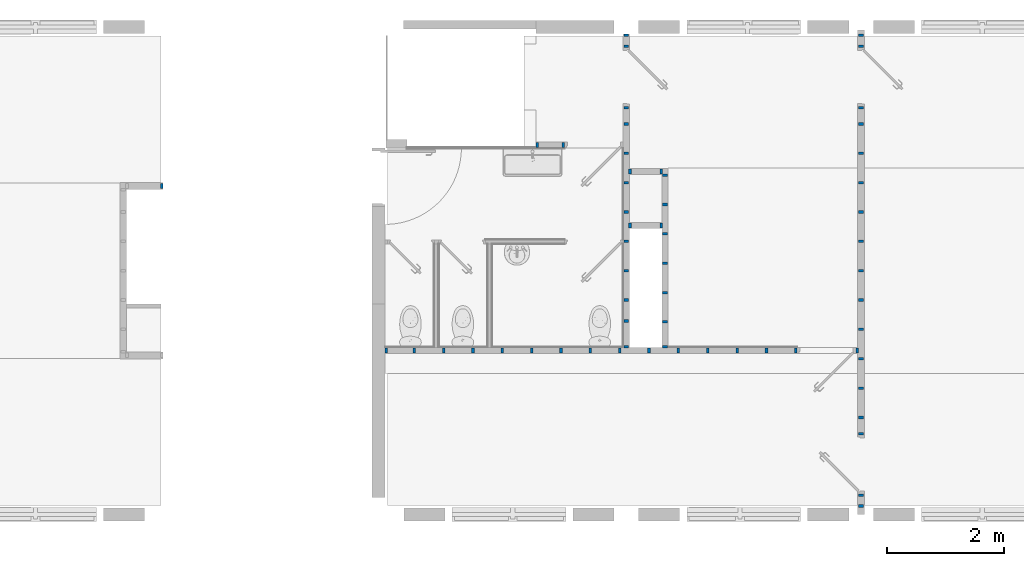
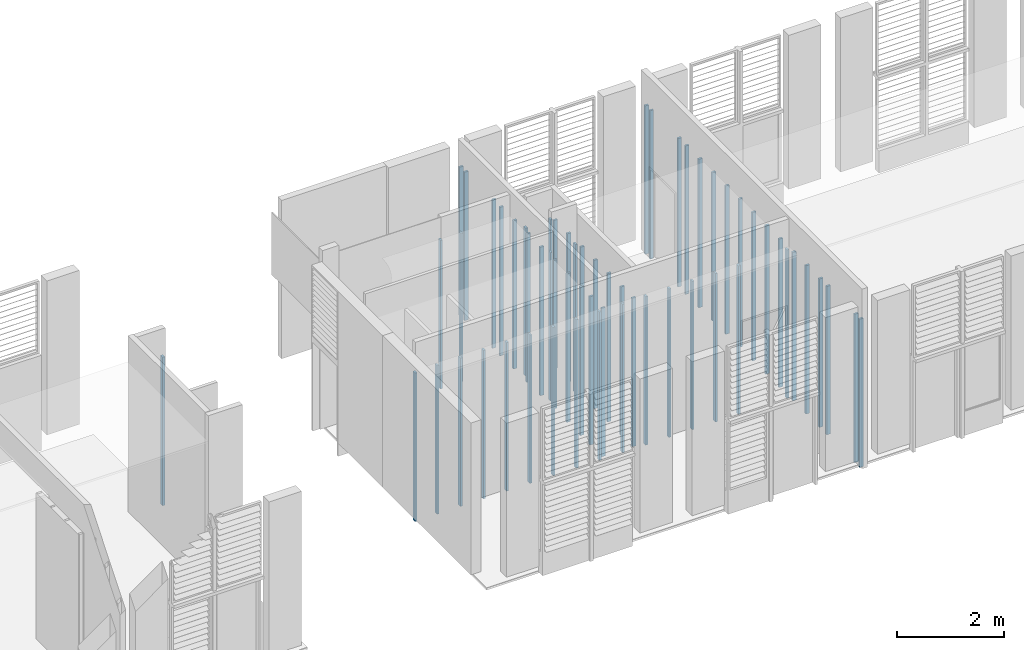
# One storey, part 2 of 8: 59 columns.
"""IFC2X3 building model written with IfcOpenShell, lengths in metres."""

from ifc_helpers import new_model, entity, si_unit, converted_unit, derived_unit, direction, frame, origin, origin_2d_with_axis, place, context, subcontext, project, spatial, rectangle, extrude, source, transform, mapped, material, type_object, type_shapes, element, save


model = new_model("IFC2X3")

# Units and contexts
model_context = context("Model", 3, precision=1e-05, world=origin(), true_north=direction((6.12303176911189e-17, 1.0)))
body_context = subcontext(model_context, "Body", "Model", "MODEL_VIEW")
ifc_project = project(units=[si_unit("LENGTHUNIT", "METRE"), si_unit("AREAUNIT", "SQUARE_METRE"), si_unit("VOLUMEUNIT", "CUBIC_METRE"), converted_unit("PLANEANGLEUNIT", "DEGREE", entity("IfcRatioMeasure", 0.0174532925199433), si_unit("PLANEANGLEUNIT", "RADIAN"), dimensions=[0, 0, 0, 0, 0, 0, 0]), si_unit("MASSUNIT", "GRAM", prefix="KILO"), derived_unit("MASSDENSITYUNIT", [(si_unit("MASSUNIT", "GRAM", prefix="KILO"), 1), (si_unit("LENGTHUNIT", "METRE"), -3)]), si_unit("TIMEUNIT", "SECOND"), si_unit("FREQUENCYUNIT", "HERTZ"), si_unit("THERMODYNAMICTEMPERATUREUNIT", "DEGREE_CELSIUS"), derived_unit("THERMALTRANSMITTANCEUNIT", [(si_unit("MASSUNIT", "GRAM", prefix="KILO"), 1), (si_unit("THERMODYNAMICTEMPERATUREUNIT", "KELVIN"), -1), (si_unit("TIMEUNIT", "SECOND"), -3)]), derived_unit("VOLUMETRICFLOWRATEUNIT", [(si_unit("LENGTHUNIT", "METRE"), 3), (si_unit("TIMEUNIT", "SECOND"), -1)]), si_unit("ELECTRICCURRENTUNIT", "AMPERE"), si_unit("ELECTRICVOLTAGEUNIT", "VOLT"), si_unit("POWERUNIT", "WATT"), si_unit("FORCEUNIT", "NEWTON", prefix="KILO"), si_unit("ILLUMINANCEUNIT", "LUX"), si_unit("LUMINOUSFLUXUNIT", "LUMEN"), si_unit("LUMINOUSINTENSITYUNIT", "CANDELA"), derived_unit("USERDEFINED", [(si_unit("MASSUNIT", "GRAM", prefix="KILO"), -1), (si_unit("LENGTHUNIT", "METRE"), -2), (si_unit("TIMEUNIT", "SECOND"), 3), (si_unit("LUMINOUSFLUXUNIT", "LUMEN"), 1)]), derived_unit("LINEARVELOCITYUNIT", [(si_unit("LENGTHUNIT", "METRE"), 1), (si_unit("TIMEUNIT", "SECOND"), -1)]), si_unit("PRESSUREUNIT", "PASCAL"), derived_unit("USERDEFINED", [(si_unit("LENGTHUNIT", "METRE"), -2), (si_unit("MASSUNIT", "GRAM", prefix="KILO"), 1), (si_unit("TIMEUNIT", "SECOND"), -2)])], contexts=[model_context])

# Site, building, storey
site_placement = place(None, origin())
site = spatial("IfcSite", under=ifc_project, at=site_placement, Name="Surface", CompositionType="ELEMENT")
building_placement = place(site_placement, origin())
building = spatial("IfcBuilding", under=site, at=building_placement, Name="ExPREF", CompositionType="ELEMENT")
storey_placement = place(building_placement, origin())
storey = spatial("IfcBuildingStorey", under=building, at=storey_placement, Name="RDC", CompositionType="ELEMENT", Elevation=-6.89719131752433e-12)

# Columns
ifc_material_1 = material(Name="AA-bois poutres")
column_type_1 = type_object("IfcColumnType", Name="HEA160", PredefinedType="COLUMN")
shared_shape_1 = source(origin(), body_context, "Body", "SweptSolid", [
    extrude(rectangle(XDim=0.08, YDim=0.0449999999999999, at=origin_2d_with_axis()), frame((0.0, 0.0, -0.0550000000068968), z_axis=(0.0, 0.0, 1.0), x_axis=(0.0, -1.0, 0.0)), (0.0, 0.0, 1.0), 3.385),
])
type_shapes(column_type_1, [shared_shape_1])
column_1_placement = place(storey_placement, frame((41.5772436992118, -187.766069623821, 0.0)))
element("IfcColumn", 1, at=column_1_placement, inside=storey, type_object=column_type_1, material=ifc_material_1, Name="poteau bois 8x4.5 cm:HEA160", ObjectType="HEA160", context=body_context, shape_type="MappedRepresentation", body=[
    mapped(shared_shape_1, transform((0.0, 0.0, 0.0), scale=1.0)),
])
ifc_material_2 = material(Name="AA-bois tasseau cloison")
column_type_2 = type_object("IfcColumnType", Name="HEA160", PredefinedType="COLUMN")
shared_shape_2 = source(origin(), body_context, "Body", "SweptSolid", [
    extrude(rectangle(XDim=0.08, YDim=0.0449999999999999, at=origin_2d_with_axis()), frame((0.0, 0.0, -0.0550000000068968), z_axis=(0.0, 0.0, 1.0), x_axis=(0.0, -1.0, 0.0)), (0.0, 0.0, 1.0), 3.385),
])
type_shapes(column_type_2, [shared_shape_2])
for number, where, z_axis, x_axis, name in (
    (2, (49.4897436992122, -189.20806962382, 0.0), (0.0, 0.0, 1.0), (0.0, -1.0, 0.0), "poteau bois 8x4.5 cm:HEA160"),
    (3, (49.4897436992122, -188.70806962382, 0.0), (0.0, 0.0, 1.0), (0.0, -1.0, 0.0), "poteau bois 8x4.5 cm:HEA160"),
    (4, (49.4897436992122, -188.20806962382, 0.0), (0.0, 0.0, 1.0), (0.0, -1.0, 0.0), "poteau bois 8x4.5 cm:HEA160"),
    (5, (49.4897436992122, -187.70806962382, 0.0), (0.0, 0.0, 1.0), (0.0, -1.0, 0.0), "poteau bois 8x4.5 cm:HEA160"),
    (6, (49.4897436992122, -187.20806962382, 0.0), (0.0, 0.0, 1.0), (0.0, -1.0, 0.0), "poteau bois 8x4.5 cm:HEA160"),
    (7, (49.4897436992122, -186.70806962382, 0.0), (0.0, 0.0, 1.0), (0.0, -1.0, 0.0), "poteau bois 8x4.5 cm:HEA160"),
    (8, (49.4897436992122, -185.19898794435, 0.0), (0.0, 0.0, 1.0), (0.0, -1.0, 0.0), "poteau bois 8x4.5 cm:HEA160"),
    (9, (49.4897436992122, -186.428987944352, 0.0), (0.0, 0.0, 1.0), (0.0, -1.0, 0.0), "poteau bois 8x4.5 cm:HEA160"),
    (10, (49.4897436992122, -185.383987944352, 0.0), (0.0, 0.0, 1.0), (0.0, -1.0, 0.0), "poteau bois 8x4.5 cm:HEA160"),
    (11, (53.4897436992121, -189.20806962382, 0.0), (0.0, 0.0, 1.0), (0.0, -1.0, 0.0), "poteau bois 8x4.5 cm:HEA160"),
    (12, (53.4897436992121, -188.70806962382, 0.0), (0.0, 0.0, 1.0), (0.0, -1.0, 0.0), "poteau bois 8x4.5 cm:HEA160"),
    (13, (53.4897436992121, -188.20806962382, 0.0), (0.0, 0.0, 1.0), (0.0, -1.0, 0.0), "poteau bois 8x4.5 cm:HEA160"),
    (14, (53.4897436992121, -187.70806962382, 0.0), (0.0, 0.0, 1.0), (0.0, -1.0, 0.0), "poteau bois 8x4.5 cm:HEA160"),
    (15, (53.4897436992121, -187.20806962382, 0.0), (0.0, 0.0, 1.0), (0.0, -1.0, 0.0), "poteau bois 8x4.5 cm:HEA160"),
    (16, (53.4897436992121, -186.70806962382, 0.0), (0.0, 0.0, 1.0), (0.0, -1.0, 0.0), "poteau bois 8x4.5 cm:HEA160"),
    (17, (53.4897436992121, -185.19898794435, 0.0), (0.0, 0.0, 1.0), (0.0, -1.0, 0.0), "poteau bois 8x4.5 cm:HEA160"),
    (18, (53.4897436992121, -186.428987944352, 0.0), (0.0, 0.0, 1.0), (0.0, -1.0, 0.0), "poteau bois 8x4.5 cm:HEA160"),
    (19, (53.4897436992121, -185.383987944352, 0.0), (0.0, 0.0, 1.0), (0.0, -1.0, 0.0), "poteau bois 8x4.5 cm:HEA160"),
):
    element("IfcColumn", number, at=place(storey_placement, frame(where, z_axis=z_axis, x_axis=x_axis)), inside=storey, type_object=column_type_2, material=ifc_material_2, Name=name, ObjectType="HEA160", context=body_context, shape_type="MappedRepresentation", body=[
        mapped(shared_shape_2, transform((0.0, 0.0, 0.0), scale=1.0)),
    ])
column_type_3 = type_object("IfcColumnType", Name="HEA160", PredefinedType="COLUMN")
shared_shape_3 = source(origin(), body_context, "Body", "SweptSolid", [
    extrude(rectangle(XDim=0.08, YDim=0.0449999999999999, at=origin_2d_with_axis()), frame((0.0, 0.0, -0.0550000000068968), z_axis=(0.0, 0.0, 1.0), x_axis=(0.0, -1.0, 0.0)), (0.0, 0.0, 1.0), 3.385),
])
type_shapes(column_type_3, [shared_shape_3])
column_2_placement = place(storey_placement, frame((49.4897436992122, -189.708069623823, 0.0), z_axis=(0.0, 0.0, 1.0), x_axis=(0.0, 1.0, 0.0)))
element("IfcColumn", 20, at=column_2_placement, inside=storey, type_object=column_type_3, material=ifc_material_2, Name="poteau bois 8x4.5 cm:HEA160", ObjectType="HEA160", context=body_context, shape_type="MappedRepresentation", body=[
    mapped(shared_shape_3, transform((0.0, 0.0, 0.0), scale=1.0)),
])
for number, where, name in (
    (21, (47.972243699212, -187.066488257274, 0.0), "poteau bois 8x4.5 cm:HEA160"),
    (22, (48.4147436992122, -187.066488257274, 0.0), "poteau bois 8x4.5 cm:HEA160"),
):
    element("IfcColumn", number, at=place(storey_placement, frame(where)), inside=storey, type_object=column_type_3, material=ifc_material_2, Name=name, ObjectType="HEA160", context=body_context, shape_type="MappedRepresentation", body=[
        mapped(shared_shape_3, transform((0.0, 0.0, 0.0), scale=1.0)),
    ])
for number, where, z_axis, x_axis, name in (
    (23, (53.4897436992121, -193.217151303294, 0.0), (0.0, 0.0, 1.0), (0.0, 1.0, 0.0), "poteau bois 8x4.5 cm:HEA160"),
    (24, (53.4897436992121, -189.708069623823, 0.0), (0.0, 0.0, 1.0), (0.0, 1.0, 0.0), "poteau bois 8x4.5 cm:HEA160"),
    (25, (53.4897436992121, -190.208069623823, 0.0), (0.0, 0.0, 1.0), (0.0, 1.0, 0.0), "poteau bois 8x4.5 cm:HEA160"),
    (26, (53.4897436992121, -190.708069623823, 0.0), (0.0, 0.0, 1.0), (0.0, 1.0, 0.0), "poteau bois 8x4.5 cm:HEA160"),
    (27, (53.4897436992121, -191.208069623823, 0.0), (0.0, 0.0, 1.0), (0.0, 1.0, 0.0), "poteau bois 8x4.5 cm:HEA160"),
    (28, (53.4897436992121, -191.708069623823, 0.0), (0.0, 0.0, 1.0), (0.0, 1.0, 0.0), "poteau bois 8x4.5 cm:HEA160"),
    (29, (53.4897436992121, -191.987151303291, 0.0), (0.0, 0.0, 1.0), (0.0, 1.0, 0.0), "poteau bois 8x4.5 cm:HEA160"),
    (30, (53.4897436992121, -193.032151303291, 0.0), (0.0, 0.0, 1.0), (0.0, 1.0, 0.0), "poteau bois 8x4.5 cm:HEA160"),
):
    element("IfcColumn", number, at=place(storey_placement, frame(where, z_axis=z_axis, x_axis=x_axis)), inside=storey, type_object=column_type_3, material=ifc_material_2, Name=name, ObjectType="HEA160", context=body_context, shape_type="MappedRepresentation", body=[
        mapped(shared_shape_3, transform((0.0, 0.0, 0.0), scale=1.0)),
    ])
for number, where, name in (
    (31, (50.0872436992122, -187.516069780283, 0.0), "poteau bois 8x4.5 cm:HEA160"),
    (32, (49.5522436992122, -187.516069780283, 0.0), "poteau bois 8x4.5 cm:HEA160"),
):
    element("IfcColumn", number, at=place(storey_placement, frame(where)), inside=storey, type_object=column_type_3, material=ifc_material_2, Name=name, ObjectType="HEA160", context=body_context, shape_type="MappedRepresentation", body=[
        mapped(shared_shape_3, transform((0.0, 0.0, 0.0), scale=1.0)),
    ])
for number, where, z_axis, x_axis, name in (
    (33, (50.1497436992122, -187.580569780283, 0.0), (0.0, 0.0, 1.0), (0.0, -1.0, 0.0), "poteau bois 8x4.5 cm:HEA160"),
    (34, (50.1497436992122, -188.080569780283, 0.0), (0.0, 0.0, 1.0), (0.0, -1.0, 0.0), "poteau bois 8x4.5 cm:HEA160"),
    (35, (50.1497436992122, -188.580569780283, 0.0), (0.0, 0.0, 1.0), (0.0, -1.0, 0.0), "poteau bois 8x4.5 cm:HEA160"),
    (36, (50.1497436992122, -189.080569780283, 0.0), (0.0, 0.0, 1.0), (0.0, -1.0, 0.0), "poteau bois 8x4.5 cm:HEA160"),
    (37, (50.1497436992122, -189.580569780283, 0.0), (0.0, 0.0, 1.0), (0.0, -1.0, 0.0), "poteau bois 8x4.5 cm:HEA160"),
    (38, (50.1497436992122, -190.080569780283, 0.0), (0.0, 0.0, 1.0), (0.0, -1.0, 0.0), "poteau bois 8x4.5 cm:HEA160"),
    (39, (50.1497436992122, -190.50556962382, 0.0), (0.0, 0.0, 1.0), (0.0, -1.0, 0.0), "poteau bois 8x4.5 cm:HEA160"),
):
    element("IfcColumn", number, at=place(storey_placement, frame(where, z_axis=z_axis, x_axis=x_axis)), inside=storey, type_object=column_type_3, material=ifc_material_2, Name=name, ObjectType="HEA160", context=body_context, shape_type="MappedRepresentation", body=[
        mapped(shared_shape_3, transform((0.0, 0.0, 0.0), scale=1.0)),
    ])
for number, where, name in (
    (40, (50.0872436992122, -188.438069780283, 0.0), "poteau bois 8x4.5 cm:HEA160"),
    (41, (49.5522436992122, -188.438069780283, 0.0), "poteau bois 8x4.5 cm:HEA160"),
    (42, (49.3772436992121, -190.56806962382, 0.0), "poteau bois 8x4.5 cm:HEA160"),
    (43, (48.8772436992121, -190.56806962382, 0.0), "poteau bois 8x4.5 cm:HEA160"),
    (44, (48.3772436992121, -190.56806962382, 0.0), "poteau bois 8x4.5 cm:HEA160"),
    (45, (47.8772436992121, -190.56806962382, 0.0), "poteau bois 8x4.5 cm:HEA160"),
    (46, (47.3772436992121, -190.56806962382, 0.0), "poteau bois 8x4.5 cm:HEA160"),
    (47, (46.8772436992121, -190.56806962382, 0.0), "poteau bois 8x4.5 cm:HEA160"),
    (48, (46.3772436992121, -190.56806962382, 0.0), "poteau bois 8x4.5 cm:HEA160"),
    (49, (45.8772436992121, -190.56806962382, 0.0), "poteau bois 8x4.5 cm:HEA160"),
    (50, (45.402243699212, -190.56806962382, 0.0), "poteau bois 8x4.5 cm:HEA160"),
):
    element("IfcColumn", number, at=place(storey_placement, frame(where)), inside=storey, type_object=column_type_3, material=ifc_material_2, Name=name, ObjectType="HEA160", context=body_context, shape_type="MappedRepresentation", body=[
        mapped(shared_shape_3, transform((0.0, 0.0, 0.0), scale=1.0)),
    ])
for number, where, z_axis, x_axis, name in (
    (51, (49.4897436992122, -190.065569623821, 0.0), (0.0, 0.0, 1.0), (0.0, 1.0, 0.0), "poteau bois 8x4.5 cm:HEA160"),
    (52, (49.4897436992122, -190.505569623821, 0.0), (0.0, 0.0, 1.0), (0.0, 1.0, 0.0), "poteau bois 8x4.5 cm:HEA160"),
):
    element("IfcColumn", number, at=place(storey_placement, frame(where, z_axis=z_axis, x_axis=x_axis)), inside=storey, type_object=column_type_3, material=ifc_material_2, Name=name, ObjectType="HEA160", context=body_context, shape_type="MappedRepresentation", body=[
        mapped(shared_shape_3, transform((0.0, 0.0, 0.0), scale=1.0)),
    ])
for number, where, name in (
    (53, (51.3772436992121, -190.56806962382, 0.0), "poteau bois 8x4.5 cm:HEA160"),
    (54, (50.8772436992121, -190.56806962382, 0.0), "poteau bois 8x4.5 cm:HEA160"),
    (55, (50.3772436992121, -190.56806962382, 0.0), "poteau bois 8x4.5 cm:HEA160"),
    (56, (49.8772436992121, -190.56806962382, 0.0), "poteau bois 8x4.5 cm:HEA160"),
    (57, (53.4222436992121, -190.56806962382, 0.0), "poteau bois 8x4.5 cm:HEA160"),
    (58, (52.3772436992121, -190.56806962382, 0.0), "poteau bois 8x4.5 cm:HEA160"),
    (59, (51.8772436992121, -190.56806962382, 0.0), "poteau bois 8x4.5 cm:HEA160"),
):
    element("IfcColumn", number, at=place(storey_placement, frame(where)), inside=storey, type_object=column_type_3, material=ifc_material_2, Name=name, ObjectType="HEA160", context=body_context, shape_type="MappedRepresentation", body=[
        mapped(shared_shape_3, transform((0.0, 0.0, 0.0), scale=1.0)),
    ])

save(model, "model.ifc")
